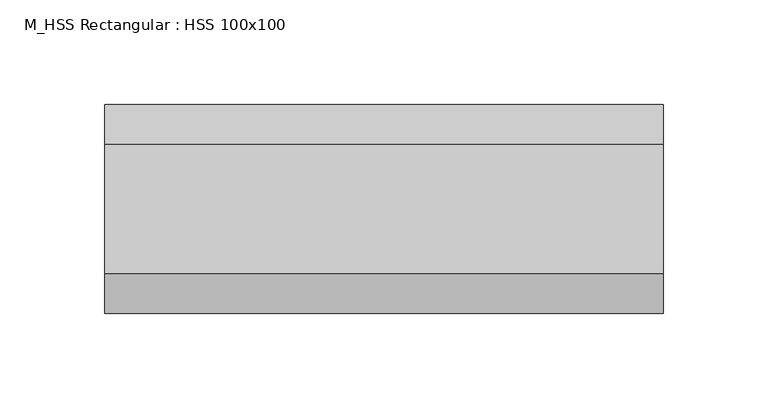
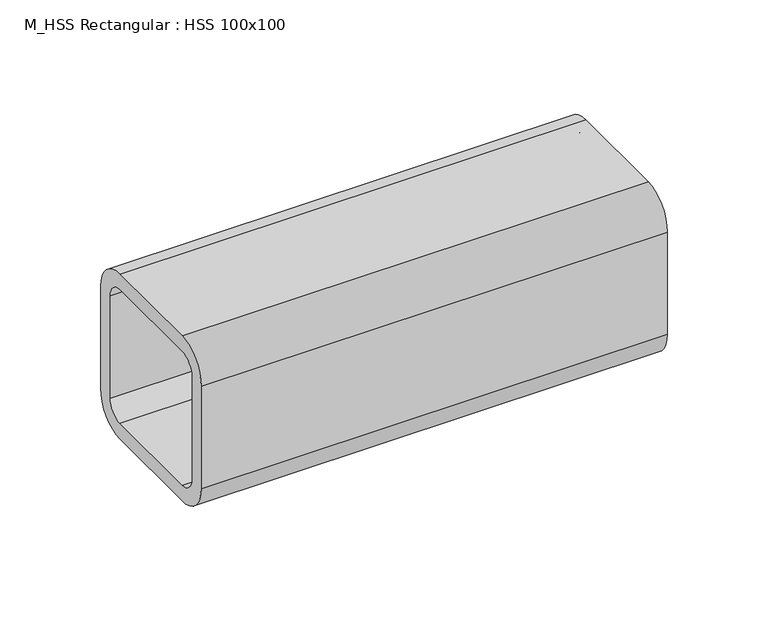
"""IFC4 building model written with IfcOpenShell, lengths in millimetres: beam geometry, M_HSS Rectangular : HSS 100x100."""

from ifc_helpers import new_model, si_unit, point, frame, frame_2d, origin, place, context, project, spatial, polyline, circle_curve, trimmed, segment, composite_curve, outline, extrude, source, transform, mapped, element, save


def m_hss_rectangular_hss_100x100_087ac0b1(model_context):
    return source(origin(), model_context, "Body", "SweptSolid", [
        extrude(outline(composite_curve([segment(polyline([(50.0, 30.94), (50.0, -30.94)]), True, "CONTINUOUS"), segment(trimmed(circle_curve(frame_2d((30.94, -30.94)), 19.06), [point((50.0, -30.94))], [point((30.94, -50.0))], False, "CARTESIAN"), True, "CONTINUOUS"), segment(polyline([(30.94, -50.0), (-30.94, -50.0)]), True, "CONTINUOUS"), segment(trimmed(circle_curve(frame_2d((-30.94, -30.94)), 19.06), [point((-30.94, -50.0))], [point((-50.0, -30.94))], False, "CARTESIAN"), True, "CONTINUOUS"), segment(polyline([(-50.0, -30.94), (-50.0, 30.94)]), True, "CONTINUOUS"), segment(trimmed(circle_curve(frame_2d((-30.94, 30.94)), 19.06), [point((-50.0, 30.94))], [point((-30.94, 50.0))], False, "CARTESIAN"), True, "CONTINUOUS"), segment(polyline([(-30.94, 50.0), (30.94, 50.0)]), True, "CONTINUOUS"), segment(trimmed(circle_curve(frame_2d((30.94, 30.94)), 19.06), [point((30.94, 50.0))], [point((50.0, 30.94))], False, "CARTESIAN"), True, "CONTINUOUS")], self_intersect=False), holes=[composite_curve([segment(trimmed(circle_curve(frame_2d((-30.94, 30.94)), 9.53), [point((-30.94, 40.47))], [point((-40.47, 30.94))], True, "CARTESIAN"), True, "CONTINUOUS"), segment(polyline([(-40.47, 30.94), (-40.47, -30.94)]), True, "CONTINUOUS"), segment(trimmed(circle_curve(frame_2d((-30.94, -30.94)), 9.53), [point((-40.47, -30.94))], [point((-30.94, -40.47))], True, "CARTESIAN"), True, "CONTINUOUS"), segment(polyline([(-30.94, -40.47), (30.94, -40.47)]), True, "CONTINUOUS"), segment(trimmed(circle_curve(frame_2d((30.94, -30.94)), 9.53), [point((30.94, -40.47))], [point((40.47, -30.94))], True, "CARTESIAN"), True, "CONTINUOUS"), segment(polyline([(40.47, -30.94), (40.47, 30.94)]), True, "CONTINUOUS"), segment(trimmed(circle_curve(frame_2d((30.94, 30.94)), 9.53), [point((40.47, 30.94))], [point((30.94, 40.47))], True, "CARTESIAN"), True, "CONTINUOUS"), segment(polyline([(30.94, 40.47), (-30.94, 40.47)]), True, "CONTINUOUS")], self_intersect=False)]), frame((-127.2, 0.0, 0.0), z_axis=(1.0, 0.0, 0.0), x_axis=(0.0, 1.0, 0.0)), (0.0, 0.0, 1.0), 267.2),
    ])


if __name__ == "__main__":
    model = new_model("IFC4")
    model_context = context("Model", 3, world=origin())
    ifc_project = project(units=[si_unit("LENGTHUNIT", "METRE", prefix="MILLI")], contexts=[model_context])
    site = spatial("IfcSite", under=ifc_project)
    building = spatial("IfcBuilding", under=site)
    placement = place(None, origin())
    m_hss_rectangular_hss_100x100_shape = m_hss_rectangular_hss_100x100_087ac0b1(model_context)
    element("IfcBeam", 1, ObjectType="M_HSS Rectangular : HSS 100x100", at=placement, inside=building, context=model_context, shape_type="MappedRepresentation", body=[
        mapped(m_hss_rectangular_hss_100x100_shape, transform((0.0, 0.0, 0.0), x_axis=(1.0, 0.0, 0.0), y_axis=(0.0, 1.0, 0.0), z_axis=(0.0, 0.0, 1.0))),
    ])
    save(model, "model.ifc")
